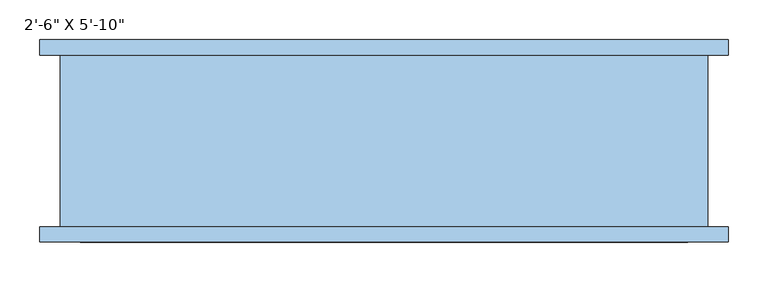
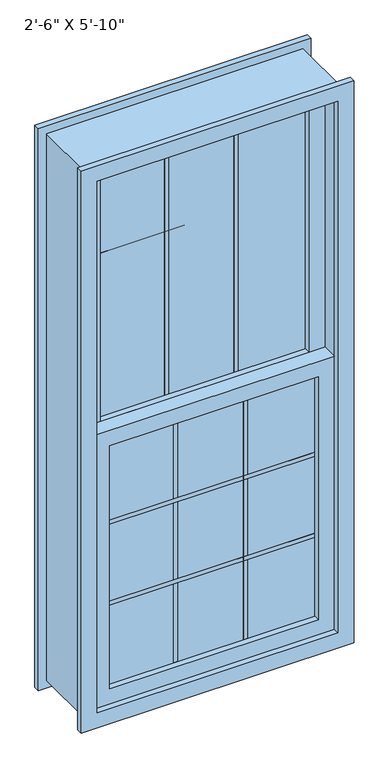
"""IFC4 building model written with IfcOpenShell, lengths in millimetres: window geometry."""

import ifcopenshell
import ifcopenshell.guid

model = None  # the IFC model being written
_history = None  # IfcOwnerHistory: only IFC2X3 demands one
_inside = {}  # id of a spatial element -> (the spatial element, [elements in it])
_under = {}  # id of a project, library or spatial element -> (it, [spatial elements below it])
_declared = {}  # id of a project -> (the project, [libraries it declares])
_typed = {}  # id of a type object -> (the type object, [elements of that type])
_made_of = {}  # id of a material, layer set ... -> (it, [elements and type objects made of it])


def new_model(schema):
    """Start an empty IFC model of exactly this schema.

    Asked for "IFC4X3", IfcOpenShell would pick the latest addendum, in which some entities
    have other attributes; the version numbers below select the first issue.
    IFC2X3 requires an IfcOwnerHistory on every rooted entity: one is made here for all.
    """
    global model, _history
    if schema == "IFC4X3":
        model = ifcopenshell.file(schema_version=(4, 3, 0, 0))
    else:
        model = ifcopenshell.file(schema=schema)
    _inside.clear()
    _under.clear()
    _declared.clear()
    _typed.clear()
    _made_of.clear()
    _history = None
    if model.schema == "IFC2X3":
        org = make("IfcOrganization", Name="unknown")
        user = make(
            "IfcPersonAndOrganization",
            ThePerson=make("IfcPerson", FamilyName="unknown"),
            TheOrganization=org,
        )
        app = make(
            "IfcApplication",
            ApplicationDeveloper=org,
            Version="unknown",
            ApplicationFullName="unknown",
            ApplicationIdentifier="unknown",
        )
        _history = make(
            "IfcOwnerHistory",
            OwningUser=user,
            OwningApplication=app,
            ChangeAction="ADDED",
            CreationDate=0,
        )
    return model


def make(cls, **values):
    """One entity of the class cls with the attributes given. An attribute that is None is left unset."""
    return model.create_entity(
        cls, **{name: value for name, value in values.items() if value is not None}
    )


def rooted(cls, **values):
    """An entity with a GlobalId (a new one), such as an element, a storey or a relation."""
    return make(cls, GlobalId=ifcopenshell.guid.new(), OwnerHistory=_history, **values)


def si_unit(unit_type, name, prefix=None):
    """IfcSIUnit, for example si_unit("LENGTHUNIT", "METRE", prefix="MILLI")."""
    return make("IfcSIUnit", UnitType=unit_type, Prefix=prefix, Name=name)


def assignment(units):
    """IfcUnitAssignment: the units of a project."""
    return None if units is None else make("IfcUnitAssignment", Units=units)


def point(xyz):
    """IfcCartesianPoint."""
    return None if xyz is None else make("IfcCartesianPoint", Coordinates=xyz)


def direction(xyz):
    """IfcDirection."""
    return None if xyz is None else make("IfcDirection", DirectionRatios=xyz)


def frame(location, z_axis=None, x_axis=None):
    """IfcAxis2Placement3D, a coordinate frame: its origin and axes. An axis left out is left unset."""
    return make(
        "IfcAxis2Placement3D",
        Location=point(location),
        Axis=direction(z_axis),
        RefDirection=direction(x_axis),
    )


def origin():
    """The frame at (0, 0, 0) with its axes left unset."""
    return frame((0.0, 0.0, 0.0))


def place(relative_to, where):
    """IfcLocalPlacement: puts the frame where relative to a parent placement (None: the world)."""
    return make(
        "IfcLocalPlacement", PlacementRelTo=relative_to, RelativePlacement=where
    )


def context(
    kind, dimensions, precision=None, world=None, true_north=None, identifier=None
):
    """IfcGeometricRepresentationContext, for example the 3D "Model" context."""
    return make(
        "IfcGeometricRepresentationContext",
        ContextIdentifier=identifier,
        ContextType=kind,
        CoordinateSpaceDimension=dimensions,
        Precision=precision,
        WorldCoordinateSystem=world,
        TrueNorth=true_north,
    )


def project(units=None, contexts=None):
    """IfcProject with its units and contexts."""
    return rooted(
        "IfcProject",
        Name="project",
        RepresentationContexts=contexts,
        UnitsInContext=assignment(units),
    )


def spatial(cls, under=None, at=None, **own):
    """A site, building, storey or space (cls), placed at a placement, below another one or the project."""
    s = rooted(cls, ObjectPlacement=at, **own)
    if under is not None:
        _under.setdefault(under.id(), (under, []))[1].append(s)
    return s


def polyline(points):
    """IfcPolyline through the points."""
    return make("IfcPolyline", Points=[point(p) for p in points])


def outline(outer, holes=None, kind="AREA"):
    """IfcArbitraryClosedProfileDef: a profile drawn as a closed curve; with holes, ...WithVoids."""
    if holes is None:
        return make("IfcArbitraryClosedProfileDef", ProfileType=kind, OuterCurve=outer)
    return make(
        "IfcArbitraryProfileDefWithVoids",
        ProfileType=kind,
        OuterCurve=outer,
        InnerCurves=holes,
    )


def extrude(swept, where, along, depth):
    """IfcExtrudedAreaSolid: the profile swept, set in the frame where, extruded along a direction by depth."""
    return make(
        "IfcExtrudedAreaSolid",
        SweptArea=swept,
        Position=where,
        ExtrudedDirection=direction(along),
        Depth=depth,
    )


def shape(context_of_items, identifier, shape_type, items):
    """IfcShapeRepresentation: the items that make up one representation, for example the "Body"."""
    return make(
        "IfcShapeRepresentation",
        ContextOfItems=context_of_items,
        RepresentationIdentifier=identifier,
        RepresentationType=shape_type,
        Items=items,
    )


def source(mapping_origin, context_of_items, identifier, shape_type, items):
    """IfcRepresentationMap: a shape defined once, which mapped items show again and again."""
    return make(
        "IfcRepresentationMap",
        MappingOrigin=mapping_origin,
        MappedRepresentation=shape(context_of_items, identifier, shape_type, items),
    )


def transform(
    local_origin,
    x_axis=None,
    y_axis=None,
    z_axis=None,
    scale=None,
    scale2=None,
    scale3=None,
    uniform=True,
):
    """IfcCartesianTransformationOperator3D, or its non-uniform kind. x_axis, y_axis, z_axis: its Axis1, 2, 3."""
    if uniform:
        return make(
            "IfcCartesianTransformationOperator3D",
            Axis1=direction(x_axis),
            Axis2=direction(y_axis),
            LocalOrigin=point(local_origin),
            Scale=scale,
            Axis3=direction(z_axis),
        )
    return make(
        "IfcCartesianTransformationOperator3DnonUniform",
        Axis1=direction(x_axis),
        Axis2=direction(y_axis),
        LocalOrigin=point(local_origin),
        Scale=scale,
        Axis3=direction(z_axis),
        Scale2=scale2,
        Scale3=scale3,
    )


def mapped(mapping_source, mapping_target):
    """IfcMappedItem: shows the shape of a source again, moved by a transform."""
    return make(
        "IfcMappedItem", MappingSource=mapping_source, MappingTarget=mapping_target
    )


def made_of(thing, what):
    """Note that an element or type object is made of a material, layer set ...; save() writes the relation."""
    if what is not None:
        _made_of.setdefault(what.id(), (what, []))[1].append(thing)
    return thing


def element(
    cls,
    number,
    at=None,
    inside=None,
    cuts=None,
    type_object=None,
    material=None,
    context=None,
    identifier="Body",
    shape_type=None,
    held_by="IfcProductDefinitionShape",
    body=None,
    shapes=None,
    **own,
):
    """One element of the class cls, such as IfcWall. Its Tag is "e" and its number.

    at: its placement. inside: the storey or other place that contains it. cuts: it is an
    opening in that element (IfcRelVoidsElement). A single representation is given by context,
    identifier, shape_type and body (its items); several are given by shapes. held_by: the class
    of the entity that holds the representations. save() writes the other relations.
    """
    e = rooted(cls, Tag="e%d" % number, ObjectPlacement=at, **own)
    if body is not None:
        shapes = [shape(context, identifier, shape_type, body)]
    if shapes is not None:
        e.Representation = make(held_by, Representations=shapes)
    if inside is not None:
        _inside.setdefault(inside.id(), (inside, []))[1].append(e)
    if cuts is not None:
        rooted(
            "IfcRelVoidsElement", RelatingBuildingElement=cuts, RelatedOpeningElement=e
        )
    if type_object is not None:
        _typed.setdefault(type_object.id(), (type_object, []))[1].append(e)
    return made_of(e, material)


def aggregate(whole, parts):
    """IfcRelAggregates: a whole, such as a stair, and the parts it consists of."""
    return rooted("IfcRelAggregates", RelatingObject=whole, RelatedObjects=parts)


def save(model, path):
    """Write the relations noted so far, then the file.

    IfcRelAggregates (storeys below a building ...), IfcRelContainedInSpatialStructure (elements
    in a storey), IfcRelDefinesByType, IfcRelAssociatesMaterial and IfcRelDeclares: one each for
    every whole, place, type object, material and project.
    """
    for whole, parts in _under.values():
        aggregate(whole, parts)
    for where, things in _inside.values():
        rooted(
            "IfcRelContainedInSpatialStructure",
            RelatedElements=things,
            RelatingStructure=where,
        )
    for kind, things in _typed.values():
        rooted("IfcRelDefinesByType", RelatedObjects=things, RelatingType=kind)
    for what, things in _made_of.values():
        rooted("IfcRelAssociatesMaterial", RelatedObjects=things, RelatingMaterial=what)
    for by, libraries in _declared.values():
        rooted("IfcRelDeclares", RelatingContext=by, RelatedDefinitions=libraries)
    model.write(path)


def window_e6a79fe6(model_context):
    return source(origin(), model_context, "Body", "SweptSolid", [
        extrude(outline(polyline([(2590.8, 381.0), (2590.8, -381.0), (1676.4, -381.0), (1676.4, 381.0), (2590.8, 381.0)]), holes=[polyline([(2540.0, 330.2), (1727.2, 330.2), (1727.2, -330.2), (2540.0, -330.2), (2540.0, 330.2)])]), frame((0.0, -57.15, 0.0), z_axis=(0.0, 1.0, 0.0), x_axis=(0.0, 0.0, 1.0)), (0.0, 0.0, 1.0), 50.8),
        extrude(outline(polyline([(-116.4166667, -38.1), (-116.4166667, -25.4), (-103.7166667, -25.4), (-103.7166667, -38.1), (-116.4166667, -38.1)])), frame((0.0, 0.0, 1727.2), z_axis=(0.0, 0.0, 1.0), x_axis=(1.0, 0.0, 0.0)), (0.0, 0.0, 1.0), 812.8),
        extrude(outline(polyline([(103.7166667, -38.1), (103.7166667, -25.4), (116.4166667, -25.4), (116.4166667, -38.1), (103.7166667, -38.1)])), frame((0.0, 0.0, 1727.2), z_axis=(0.0, 0.0, 1.0), x_axis=(1.0, 0.0, 0.0)), (0.0, 0.0, 1.0), 812.8),
        extrude(outline(polyline([(-330.2, -38.1), (-330.2, -25.4), (330.2, -25.4), (330.2, -38.1), (-330.2, -38.1)])), frame((0.0, 0.0, 1727.2), z_axis=(0.0, 0.0, 1.0), x_axis=(1.0, 0.0, 0.0)), (0.0, 0.0, 1.0), 812.8),
        extrude(outline(polyline([(-330.2, -88.9), (-330.2, -76.2), (330.2, -76.2), (330.2, -88.9), (-330.2, -88.9)])), frame((0.0, 0.0, 1128.1833333), z_axis=(0.0, 0.0, 1.0), x_axis=(1.0, 0.0, 0.0)), (0.0, 0.0, 1.0), 12.7),
        extrude(outline(polyline([(-330.2, -88.9), (-330.2, -76.2), (330.2, -76.2), (330.2, -88.9), (-330.2, -88.9)])), frame((0.0, 0.0, 1399.1166667), z_axis=(0.0, 0.0, 1.0), x_axis=(1.0, 0.0, 0.0)), (0.0, 0.0, 1.0), 12.7),
        extrude(outline(polyline([(103.7166667, -88.9), (103.7166667, -76.2), (116.4166667, -76.2), (116.4166667, -88.9), (103.7166667, -88.9)])), frame((0.0, 0.0, 863.6), z_axis=(0.0, 0.0, 1.0), x_axis=(1.0, 0.0, 0.0)), (0.0, 0.0, 1.0), 812.8),
        extrude(outline(polyline([(-116.4166667, -88.9), (-116.4166667, -76.2), (-103.7166667, -76.2), (-103.7166667, -88.9), (-116.4166667, -88.9)])), frame((0.0, 0.0, 863.6), z_axis=(0.0, 0.0, 1.0), x_axis=(1.0, 0.0, 0.0)), (0.0, 0.0, 1.0), 812.8),
        extrude(outline(polyline([(-330.2, -88.9), (-330.2, -76.2), (330.2, -76.2), (330.2, -88.9), (-330.2, -88.9)])), frame((0.0, 0.0, 863.6), z_axis=(0.0, 0.0, 1.0), x_axis=(1.0, 0.0, 0.0)), (0.0, 0.0, 1.0), 812.8),
        extrude(outline(polyline([(1727.2, -381.0), (812.8, -381.0), (812.8, 381.0), (1727.2, 381.0), (1727.2, -381.0)]), holes=[polyline([(1676.4, 330.2), (863.6, 330.2), (863.6, -330.2), (1676.4, -330.2), (1676.4, 330.2)])]), frame((0.0, -107.95, 0.0), z_axis=(0.0, 1.0, 0.0), x_axis=(0.0, 0.0, 1.0)), (0.0, 0.0, 1.0), 50.8),
        extrude(outline(polyline([(-330.2, -38.1), (-330.2, -25.4), (330.2, -25.4), (330.2, -38.1), (-330.2, -38.1)])), frame((0.0, 0.0, 2262.7166667), z_axis=(0.0, 0.0, 1.0), x_axis=(1.0, 0.0, 0.0)), (0.0, 0.0, 1.0), 12.7),
        extrude(outline(polyline([(-330.2, -38.1), (-330.2, -25.4), (330.2, -25.4), (330.2, -38.1), (-330.2, -38.1)])), frame((0.0, 0.0, 1991.7833333), z_axis=(0.0, 0.0, 1.0), x_axis=(1.0, 0.0, 0.0)), (0.0, 0.0, 1.0), 12.7),
        extrude(outline(polyline([(2641.6, -431.8), (762.0, -431.8), (762.0, 431.8), (2641.6, 431.8), (2641.6, -431.8)]), holes=[polyline([(2590.8, -381.0), (2590.8, 381.0), (812.8, 381.0), (812.8, -381.0), (2590.8, -381.0)])]), frame((0.0, -127.0, 0.0), z_axis=(0.0, 1.0, 0.0), x_axis=(0.0, 0.0, 1.0)), (0.0, 0.0, 1.0), 19.05),
        extrude(outline(polyline([(2641.6, -431.8), (762.0, -431.8), (762.0, 431.8), (2641.6, 431.8), (2641.6, -431.8)]), holes=[polyline([(2590.8, -381.0), (2590.8, 381.0), (812.8, 381.0), (812.8, -381.0), (2590.8, -381.0)])]), frame((0.0, 107.95, 0.0), z_axis=(0.0, 1.0, 0.0), x_axis=(0.0, 0.0, 1.0)), (0.0, 0.0, 1.0), 19.05),
        extrude(outline(polyline([(2616.2, -406.4), (787.4, -406.4), (787.4, 406.4), (2616.2, 406.4), (2616.2, -406.4)]), holes=[polyline([(2590.8, 381.0), (812.8, 381.0), (812.8, -381.0), (2590.8, -381.0), (2590.8, 381.0)])]), frame((0.0, -107.95, 0.0), z_axis=(0.0, 1.0, 0.0), x_axis=(0.0, 0.0, 1.0)), (0.0, 0.0, 1.0), 215.9),
    ])


if __name__ == "__main__":
    model = new_model("IFC4")
    model_context = context("Model", 3, world=origin())
    ifc_project = project(units=[si_unit("LENGTHUNIT", "METRE", prefix="MILLI")], contexts=[model_context])
    site = spatial("IfcSite", under=ifc_project)
    building = spatial("IfcBuilding", under=site)
    placement = place(None, origin())
    window_shape = window_e6a79fe6(model_context)
    element("IfcWindow", 1, ObjectType="C_Window Guilotine : 2'-6\" X 5'-10\"", at=placement, inside=building, context=model_context, shape_type="MappedRepresentation", body=[
        mapped(window_shape, transform((0.0, 0.0, 0.0), x_axis=(1.0, 0.0, 0.0), y_axis=(0.0, 1.0, 0.0), z_axis=(0.0, 0.0, 1.0))),
    ])
    save(model, "model.ifc")
